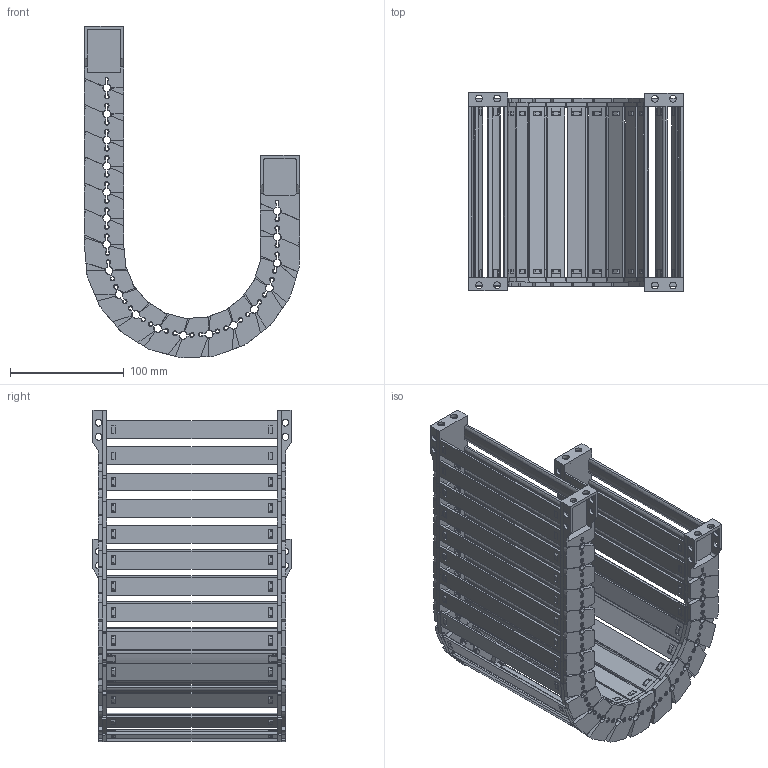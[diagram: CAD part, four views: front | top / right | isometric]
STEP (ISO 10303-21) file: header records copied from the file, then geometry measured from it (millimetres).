
FILE_DESCRIPTION(/* description */ (''),/* implementation_level */ '2;1');
FILE_NAME(/* name */ 'JY28-150-R75.stp',/* time_stamp */ '2026-06-03T18:27:45+08:00',/* author */ (''),/* organization */ (''),/* preprocessor_version */ 'ST-DEVELOPER v19.4',/* originating_system */ 'SIEMENS PLM Software NX2306.5001',/* authorisation */ '');
FILE_SCHEMA (('AP203_CONFIGURATION_CONTROLLED_3D_DESIGN_OF_MECHANICAL_PARTS_AND_ASSEMBLIES_MIM_LF { 1 0 10303 403 2 1 2}'));
Products named in the file (1): 简化图纸_objects
Bounding box: 189.55 x 174.5 x 292.17 mm (x, y, z)
Volume: 552878.8 mm3; surface area: 397250.5 mm2
Topology: 74 solids, 74 shells, 6194 faces, 17618 edges, 11518 vertices
Faces by surface type: plane 4058, cone 1120, cylinder 978, bspline 36, torus 2
Full cylindrical faces by diameter (mm): 6 x24
Entity records: 209461 total; most frequent: CARTESIAN_POINT 46487, ORIENTED_EDGE 35144, DIRECTION 33002, EDGE_CURVE 17572, LINE 11632, VECTOR 11632, VERTEX_POINT 11496, AXIS2_PLACEMENT_3D 10685
